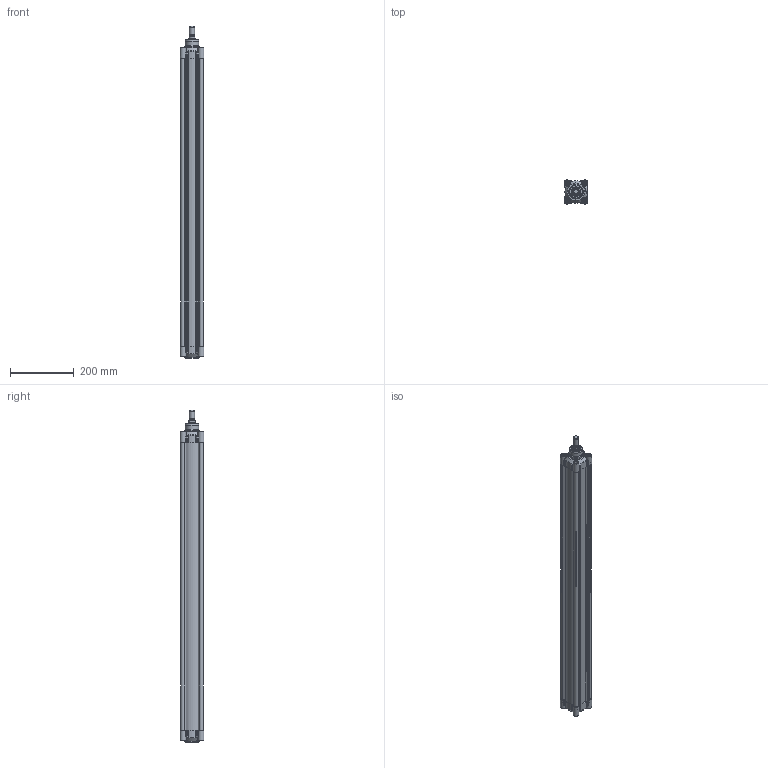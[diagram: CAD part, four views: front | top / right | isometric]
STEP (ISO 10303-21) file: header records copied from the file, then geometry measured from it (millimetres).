
FILE_DESCRIPTION(/* description */ ('CILINDRO D.E. MAGNETICO AMMORTIZZATO ISO 15552'),/* implementation_level */ '2;1');
FILE_NAME(/* name */ 'T:\Archivio Inventor\- 00 NUOVI STP PER SITO CON STELO CHE SI MUOVE\SERIE H - U\SERIE HDM\HDM063 - TUBO NUOVO\HDM063.850.GS.M.stp',/* time_stamp */ '2018-07-30T15:01:06+02:00',/* author */ ('carlo.corazza'),/* organization */ (''),/* preprocessor_version */ 'ST-DEVELOPER v16.5',/* originating_system */ 'Autodesk Inventor 2017',/* authorisation */ '');
FILE_SCHEMA (('AUTOMOTIVE_DESIGN { 1 0 10303 214 3 1 1 }'));
Length unit declared in the file: millimetre
Products named in the file (5): HDM063.850.GS.M; TP; TA; STELO-850; CORPO-850
Assembly tree (4 placements, depth 2):
  HDM063.850.GS.M
    TP
    TA
    STELO-850
    CORPO-850
Bounding box: 75 x 75 x 1044 mm (x, y, z)
Volume: 1396060.6 mm3; surface area: 775672.3 mm2
Topology: 4 solids, 27 shells, 1241 faces, 2936 edges, 1818 vertices
Faces by surface type: plane 368, cylinder 297, bspline 288, torus 108, cone 106, sphere 74
Full cylindrical faces by diameter (mm): 3 x2, 3.4 x2, 4.8 x2, 5.25 x2, 6.647 x8, 8 x8, 8.3 x12, 9.8 x4, 9.9 x2, 10 x6, 12 x3, 13 x8, 13.3 x8, 13.5 x1, 14.95 x2, 16 x1, 19.5 x1, 20 x1, 20.8 x1, 20.847 x1, 24 x1, 26 x2, 30 x3, 42 x1, 45 x2, 63 x1
Entity records: 40772 total; most frequent: CARTESIAN_POINT 13075, ORIENTED_EDGE 5326, DIRECTION 5100, EDGE_CURVE 2663, AXIS2_PLACEMENT_3D 2037, VERTEX_POINT 1763, EDGE_LOOP 1576, STYLED_ITEM 1245
